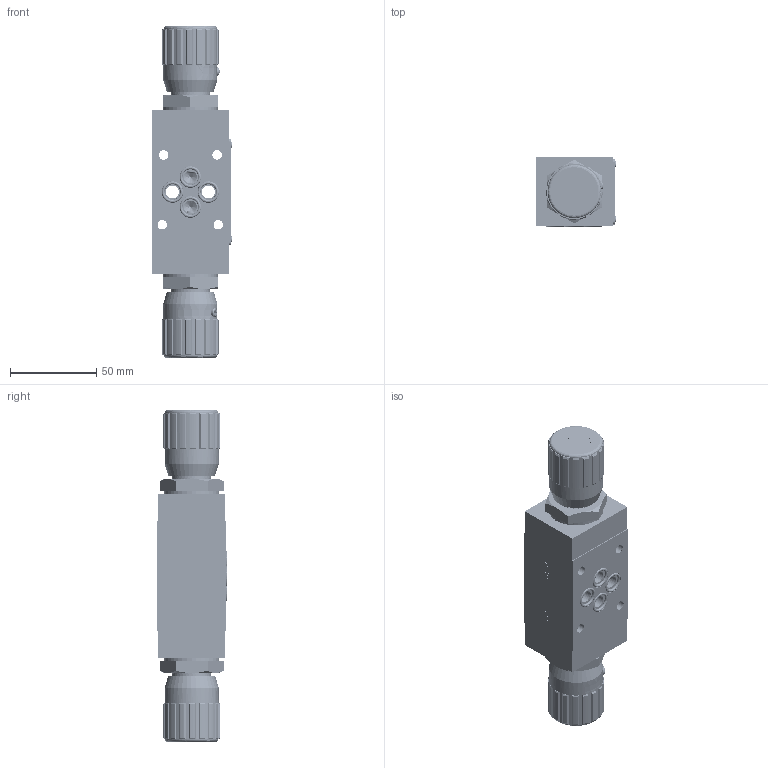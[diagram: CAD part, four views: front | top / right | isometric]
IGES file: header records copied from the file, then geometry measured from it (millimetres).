
Start section: SolidWorks IGES file using analytic representation for surfaces
Global section: file name: C:\Users\user\Desktop\FT357-5-AB-03-H.IGS; native system: SolidWorks 2014; preprocessor: SolidWorks 2014; author: user; date: 140617.071455; units: millimetre
Bounding box: 46.96 x 40.38 x 192.6 mm (x, y, z)
Surface area: 95347.1 mm2 (no closed solid volume)
Topology: 0 solids, 0 shells, 3030 faces, 34246 edges, 34222 vertices
Faces by surface type: bspline 2128, revolution 902
